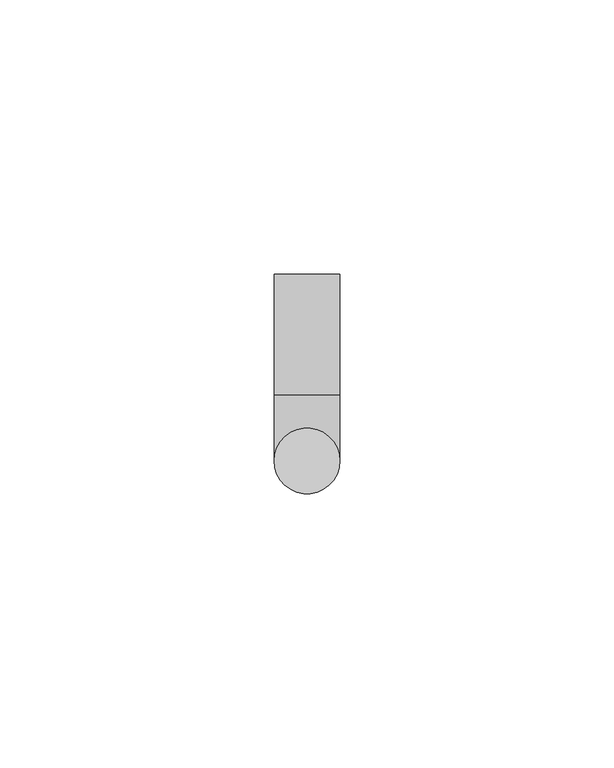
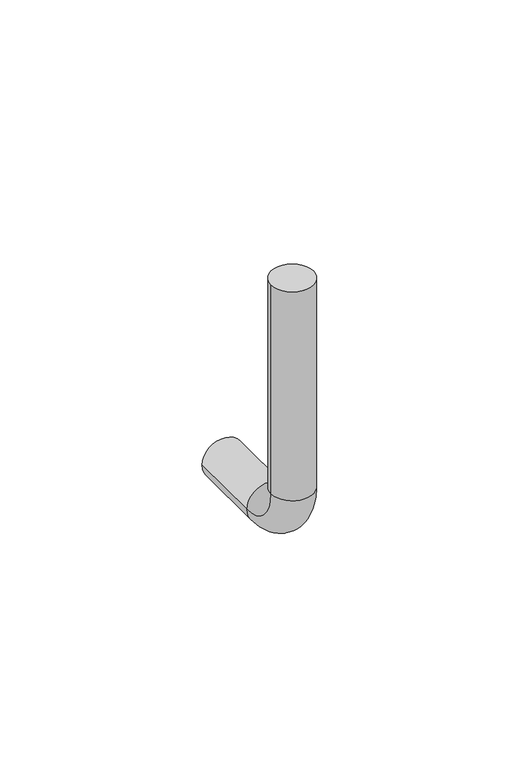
"""IFC4 building model written with IfcOpenShell, lengths in millimetres: proxy geometry, Soporte - Metal  : Soporte - Metal ."""

from ifc_helpers import new_model, si_unit, point, frame, origin, origin_with_axes, place, context, project, spatial, circle_curve, ellipse_curve, trimmed, source, transform, mapped, element, save
from ifc_brep_helpers import plane_surface, cylinder_surface, revolved_surface, advanced_brep


def building_element_proxy_bfe1e13b(model_context):
    return source(origin(), model_context, "Body", "AdvancedBrep", [
        advanced_brep(
        [(-6.0, 0.0, 0.0), (6.0, 0.0, 0.0), (-6.0, 0.0, -63.0), (6.0, 0.0, -63.0), (6.0, 12.0, -75.0), (-6.0, 12.0, -75.0), (-6.0, 34.0958769, -75.0), (6.0, 34.0958769, -75.0)],
        [
            (0, 1, circle_curve(origin_with_axes(), 6.0)),
            (1, 0, circle_curve(origin_with_axes(), 6.0)),
            (0, 2),
            (2, 3, circle_curve(frame((0.0, 0.0, -63.0), z_axis=(0.0, 0.0, 1.0), x_axis=(1.0, 0.0, 0.0)), 6.0)),
            (3, 1),
            (3, 2, circle_curve(frame((0.0, 0.0, -63.0), z_axis=(0.0, 0.0, 1.0), x_axis=(1.0, 0.0, 0.0)), 6.0)),
            (4, 3, circle_curve(frame((6.0, 12.0, -63.0), z_axis=(-1.0, 0.0, 0.0), x_axis=(0.0, -1.0, 0.0)), 12.0)),
            (2, 5, circle_curve(frame((-6.0, 12.0, -63.0), z_axis=(1.0, 0.0, 0.0), x_axis=(0.0, -1.0, 0.0)), 12.0)),
            (5, 4, circle_curve(frame((0.0, 12.0, -75.0), z_axis=(0.0, -1.0, 0.0), x_axis=(1.0, 0.0, 0.0)), 6.0)),
            (4, 5, circle_curve(frame((0.0, 12.0, -75.0), z_axis=(0.0, -1.0, 0.0), x_axis=(1.0, 0.0, 0.0)), 6.0)),
            (6, 7, circle_curve(frame((0.0, 34.0958769, -75.0), z_axis=(0.0, 1.0, 0.0), x_axis=(1.0, 0.0, 0.0)), 6.0)),
            (7, 6, circle_curve(frame((0.0, 34.0958769, -75.0), z_axis=(0.0, 1.0, 0.0), x_axis=(1.0, 0.0, 0.0)), 6.0)),
            (5, 6),
            (7, 4),
        ],
        [
            plane_surface(origin_with_axes()),
            cylinder_surface(origin_with_axes(), 6.0),
            revolved_surface(trimmed(ellipse_curve(frame((0.0, 0.0, -63.0), z_axis=(0.0, 0.0, 1.0), x_axis=(1.0, 0.0, 0.0)), 6.0, 6.0), [point((-6.0, 0.0, -63.0))], [point((6.0, 0.0, -63.0))], True, "CARTESIAN"), (0.0, 12.0, -63.0), (1.0, 0.0, 0.0)),
            revolved_surface(trimmed(ellipse_curve(frame((0.0, 0.0, -63.0), z_axis=(0.0, 0.0, 1.0), x_axis=(1.0, 0.0, 0.0)), 6.0, 6.0), [point((6.0, 0.0, -63.0))], [point((-6.0, 0.0, -63.0))], True, "CARTESIAN"), (0.0, 12.0, -63.0), (1.0, 0.0, 0.0)),
            plane_surface(frame((0.0, 34.0958769, -75.0), z_axis=(0.0, 1.0, 0.0), x_axis=(1.0, 0.0, 0.0))),
            cylinder_surface(frame((0.0, 12.0, -75.0), z_axis=(0.0, -1.0, 0.0), x_axis=(1.0, 0.0, 0.0)), 6.0),
        ],
        [
            (0, [[1, 2]]),
            (1, [[-1, 3, 4, 5]]),
            (1, [[-2, -5, 6, -3]]),
            (2, [[7, -4, 8, 9]]),
            (3, [[-8, -6, -7, 10]]),
            (4, [[11, 12]]),
            (5, [[-9, 13, -12, 14]]),
            (5, [[-10, -14, -11, -13]]),
        ],
    ),
    ])


if __name__ == "__main__":
    model = new_model("IFC4")
    model_context = context("Model", 3, world=origin())
    ifc_project = project(units=[si_unit("LENGTHUNIT", "METRE", prefix="MILLI")], contexts=[model_context])
    site = spatial("IfcSite", under=ifc_project)
    building = spatial("IfcBuilding", under=site)
    placement = place(None, origin())
    building_element_proxy_shape = building_element_proxy_bfe1e13b(model_context)
    element("IfcBuildingElementProxy", 1, Name="Soporte - Metal  : Soporte - Metal ", ObjectType="Soporte - Metal  : Soporte - Metal ", at=placement, inside=building, context=model_context, shape_type="MappedRepresentation", body=[
        mapped(building_element_proxy_shape, transform((0.0, 0.0, 0.0), x_axis=(1.0, 0.0, 0.0), y_axis=(0.0, 1.0, 0.0), z_axis=(0.0, 0.0, 1.0))),
    ])
    save(model, "model.ifc")
